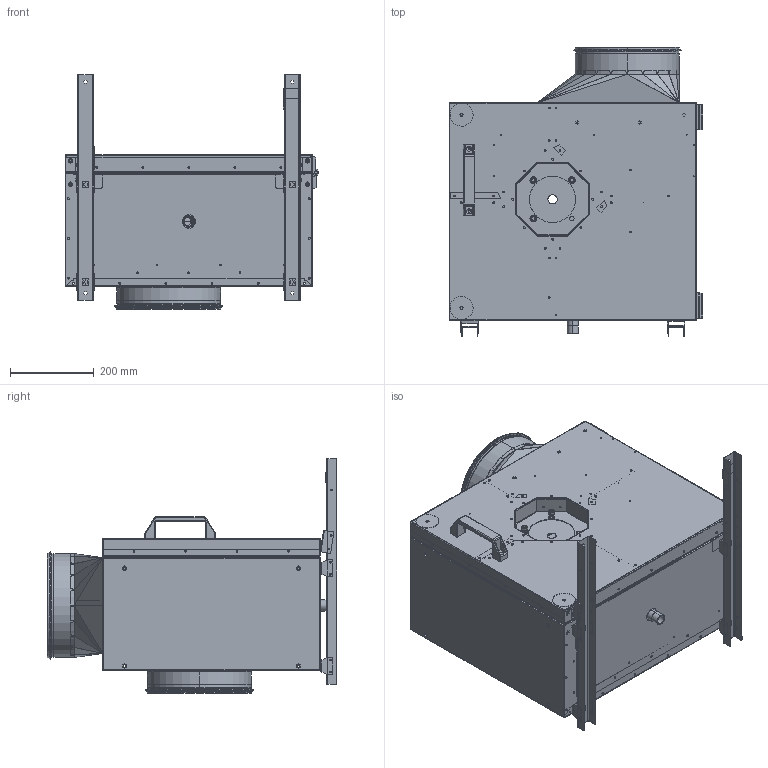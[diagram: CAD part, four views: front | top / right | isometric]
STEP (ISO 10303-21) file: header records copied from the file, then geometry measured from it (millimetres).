
FILE_DESCRIPTION (( 'STEP AP203' ), '1' );
FILE_NAME ('143072-00_MPS250EC30.STEP', '2018-03-05T08:01:59', ( '' ), ( '' ), 'SwSTEP 2.0', 'SolidWorks 2012', '' );
FILE_SCHEMA (( 'CONFIG_CONTROL_DESIGN' ));
Products named in the file (1): 143072-00_MPS250EC30
Bounding box: 607.03 x 692.64 x 561.5 mm (x, y, z)
Surface area: 5608878.4 mm2 (no closed solid volume)
Topology: 0 solids, 188 shells, 1446 faces, 8159 edges, 6724 vertices
Faces by surface type: cylinder 745, plane 599, cone 44, torus 40, bspline 18
Entity records: 83533 total; most frequent: CARTESIAN_POINT 18742, DIRECTION 14027, ORIENTED_EDGE 10747, EDGE_CURVE 8159, VERTEX_POINT 6724, AXIS2_PLACEMENT_3D 4716, LINE 4595, VECTOR 4595
